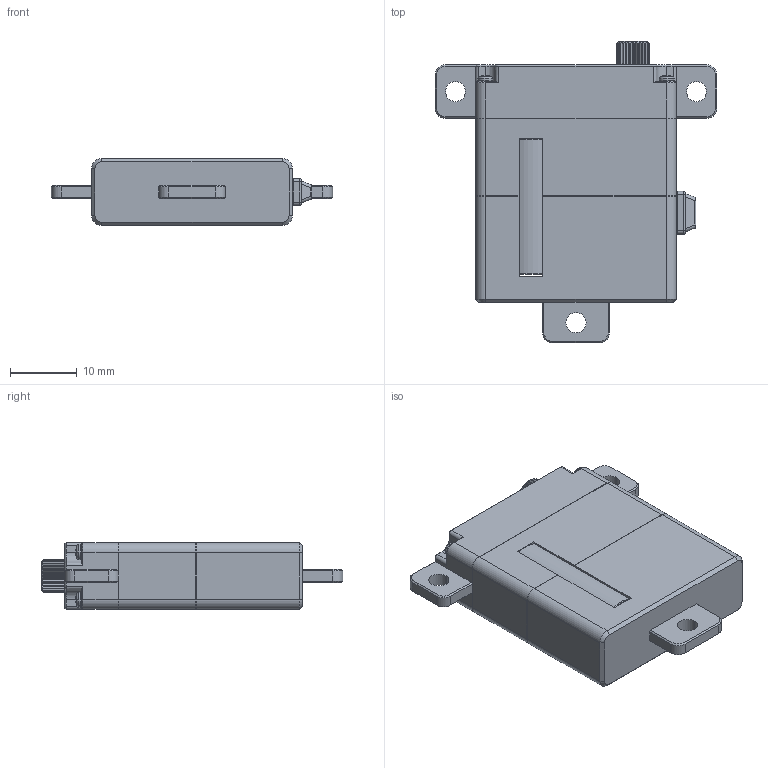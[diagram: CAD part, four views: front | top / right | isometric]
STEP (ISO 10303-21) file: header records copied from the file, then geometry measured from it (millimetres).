
FILE_DESCRIPTION((''),'2;1');
FILE_NAME('RS11V84SMC','2024-12-25T',('扂'),(''),'PRO/ENGINEER BY PARAMETRIC TECHNOLOGY CORPORATION, 2010280','PRO/ENGINEER BY PARAMETRIC TECHNOLOGY CORPORATION, 2010280','');
FILE_SCHEMA(('CONFIG_CONTROL_DESIGN'));
Length unit declared in the file: millimetre
Products named in the file (1): DDJ-WING-A27CHR
Bounding box: 42 x 45 x 10 mm (x, y, z)
Volume: 10796.6 mm3; surface area: 4159.6 mm2
Topology: 1 solids, 1 shells, 631 faces, 1731 edges, 1102 vertices
Faces by surface type: plane 290, cylinder 203, cone 86, torus 28, bspline 16, sphere 8
Entity records: 23416 total; most frequent: CARTESIAN_POINT 7620, ORIENTED_EDGE 3450, DIRECTION 3158, EDGE_CURVE 1725, AXIS2_PLACEMENT_3D 1128, VERTEX_POINT 1102, VECTOR 902, LINE 902
